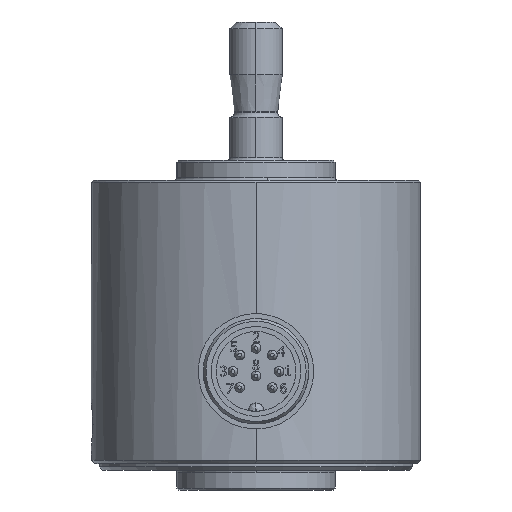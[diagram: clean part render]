
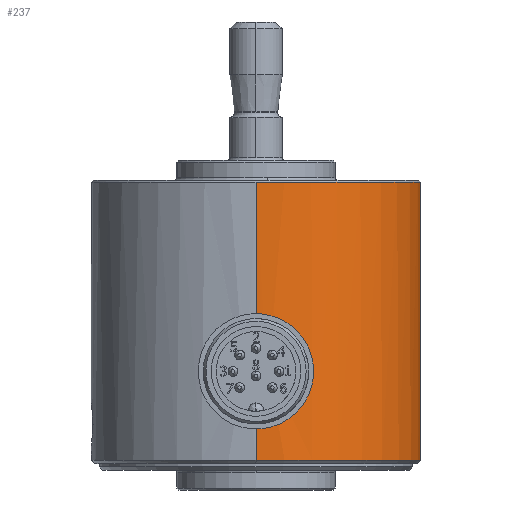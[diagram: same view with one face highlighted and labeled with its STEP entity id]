
A CAD part, left-side view. The second image highlights one B-rep face of the part: STEP entity #237.
In plain terms, the highlighted cylindrical face has radius 25 mm (diameter 50 mm), a partial arc.
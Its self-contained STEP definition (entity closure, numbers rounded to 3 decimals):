
#237=ADVANCED_FACE('',(#648),#649,.T.);
#648=FACE_OUTER_BOUND('',#1372,.T.);
#649=CYLINDRICAL_SURFACE('',#1373,25.0);
#1372=EDGE_LOOP('',(#3153,#3154,#3155,#3156,#3157,#3158,#3159,#3160,#3161));
#1373=AXIS2_PLACEMENT_3D('',#3162,#3163,#3164);
#3153=ORIENTED_EDGE('',*,*,#5231,.T.);
#3154=ORIENTED_EDGE('',*,*,#5372,.F.);
#3155=ORIENTED_EDGE('',*,*,#5285,.F.);
#3156=ORIENTED_EDGE('',*,*,#5237,.T.);
#3157=ORIENTED_EDGE('',*,*,#5365,.T.);
#3158=ORIENTED_EDGE('',*,*,#5364,.T.);
#3159=ORIENTED_EDGE('',*,*,#5307,.T.);
#3160=ORIENTED_EDGE('',*,*,#5234,.T.);
#3161=ORIENTED_EDGE('',*,*,#5384,.F.);
#3162=CARTESIAN_POINT('',(0.,0.,-1.0));
#3163=DIRECTION('',(0.0,0.,1.0));
#3164=DIRECTION('',(1.0,0.0,0.0));
#5231=EDGE_CURVE('',#6238,#6239,#6240,.T.);
#5234=EDGE_CURVE('',#6245,#6243,#6246,.T.);
#5237=EDGE_CURVE('',#6251,#6249,#6252,.T.);
#5285=EDGE_CURVE('',#6251,#6334,#6339,.T.);
#5307=EDGE_CURVE('',#6378,#6245,#6379,.T.);
#5364=EDGE_CURVE('',#6467,#6378,#6468,.T.);
#5365=EDGE_CURVE('',#6249,#6467,#6469,.T.);
#5372=EDGE_CURVE('',#6334,#6239,#6476,.T.);
#5384=EDGE_CURVE('',#6238,#6243,#6488,.T.);
#6238=VERTEX_POINT('',#7861);
#6239=VERTEX_POINT('',#7862);
#6240=LINE('',#7863,#7864);
#6243=VERTEX_POINT('',#7867);
#6245=VERTEX_POINT('',#7869);
#6246=LINE('',#7870,#7871);
#6249=VERTEX_POINT('',#7891);
#6251=VERTEX_POINT('',#7896);
#6252=LINE('',#7897,#7898);
#6334=VERTEX_POINT('',#8031);
#6339=CIRCLE('',#8038,25.0);
#6378=VERTEX_POINT('',#8118);
#6379=B_SPLINE_CURVE_WITH_KNOTS('',3,(#8119,#8120,#8121,#8122),.UNSPECIFIED.,.F.,.F.,(4,4),(0.287,0.301),.UNSPECIFIED.);
#6467=VERTEX_POINT('',#8294);
#6468=B_SPLINE_CURVE_WITH_KNOTS('',3,(#8295,#8296,#8297,#8298,#8299,#8300,#8301,#8302,#8303,#8304),.UNSPECIFIED.,.F.,.F.,(4,2,2,2,4),(0.0,0.075,0.151,0.226,0.287),.UNSPECIFIED.);
#6469=B_SPLINE_CURVE_WITH_KNOTS('',3,(#8305,#8306,#8307,#8308,#8309,#8310,#8311,#8312,#8313,#8314),.UNSPECIFIED.,.F.,.F.,(4,2,2,2,4),(0.904,0.98,1.055,1.131,1.206),.UNSPECIFIED.);
#6476=CIRCLE('',#8321,25.0);
#6488=CIRCLE('',#8333,25.0);
#7861=CARTESIAN_POINT('',(25.0,0.,-0.5));
#7862=CARTESIAN_POINT('',(25.0,0.,41.7));
#7863=CARTESIAN_POINT('',(25.0,0.,20.6));
#7864=VECTOR('',#11929,1.0);
#7867=CARTESIAN_POINT('',(-25.0,0.,-0.5));
#7869=CARTESIAN_POINT('',(-25.0,0.,11.0));
#7870=CARTESIAN_POINT('',(-25.0,0.,20.6));
#7871=VECTOR('',#11936,1.0);
#7891=CARTESIAN_POINT('',(-25.0,0.,15.0));
#7896=CARTESIAN_POINT('',(-25.0,0.,41.7));
#7897=CARTESIAN_POINT('',(-25.0,0.,20.6));
#7898=VECTOR('',#11937,1.0);
#8031=CARTESIAN_POINT('',(3.549,-24.747,41.7));
#8038=AXIS2_PLACEMENT_3D('',#12035,#12036,#12037);
#8118=CARTESIAN_POINT('',(-25.,-0.143,11.005));
#8119=CARTESIAN_POINT('',(-25.,-0.143,11.005));
#8120=CARTESIAN_POINT('',(-25.,-0.095,11.002));
#8121=CARTESIAN_POINT('',(-25.0,-0.047,11.0));
#8122=CARTESIAN_POINT('',(-25.0,0.,11.0));
#8294=CARTESIAN_POINT('',(-24.92,-2.,13.0));
#8295=CARTESIAN_POINT('',(-24.92,-2.,13.0));
#8296=CARTESIAN_POINT('',(-24.92,-2.,12.749));
#8297=CARTESIAN_POINT('',(-24.924,-1.95,12.481));
#8298=CARTESIAN_POINT('',(-24.939,-1.746,11.988));
#8299=CARTESIAN_POINT('',(-24.95,-1.592,11.763));
#8300=CARTESIAN_POINT('',(-24.97,-1.237,11.408));
#8301=CARTESIAN_POINT('',(-24.981,-1.012,11.254));
#8302=CARTESIAN_POINT('',(-24.994,-0.565,11.069));
#8303=CARTESIAN_POINT('',(-24.998,-0.351,11.02));
#8304=CARTESIAN_POINT('',(-25.,-0.143,11.005));
#8305=CARTESIAN_POINT('',(-25.0,0.,15.0));
#8306=CARTESIAN_POINT('',(-25.0,-0.251,15.0));
#8307=CARTESIAN_POINT('',(-24.996,-0.519,14.95));
#8308=CARTESIAN_POINT('',(-24.981,-1.012,14.746));
#8309=CARTESIAN_POINT('',(-24.97,-1.237,14.592));
#8310=CARTESIAN_POINT('',(-24.95,-1.592,14.237));
#8311=CARTESIAN_POINT('',(-24.939,-1.746,14.012));
#8312=CARTESIAN_POINT('',(-24.924,-1.95,13.519));
#8313=CARTESIAN_POINT('',(-24.92,-2.,13.251));
#8314=CARTESIAN_POINT('',(-24.92,-2.,13.0));
#8321=AXIS2_PLACEMENT_3D('',#12190,#12191,#12192);
#8333=AXIS2_PLACEMENT_3D('',#12226,#12227,#12228);
#11929=DIRECTION('',(0.0,0.,1.0));
#11936=DIRECTION('',(0.0,0.,-1.0));
#11937=DIRECTION('',(0.0,0.,-1.0));
#12035=CARTESIAN_POINT('',(0.,0.,41.7));
#12036=DIRECTION('',(0.,0.,1.0));
#12037=DIRECTION('',(0.142,-0.99,0.));
#12190=CARTESIAN_POINT('',(0.,0.,41.7));
#12191=DIRECTION('',(0.,0.,1.0));
#12192=DIRECTION('',(0.142,-0.99,0.));
#12226=CARTESIAN_POINT('',(0.,0.,-0.5));
#12227=DIRECTION('',(0.0,0.0,-1.0));
#12228=DIRECTION('',(1.0,0.0,0.0));
